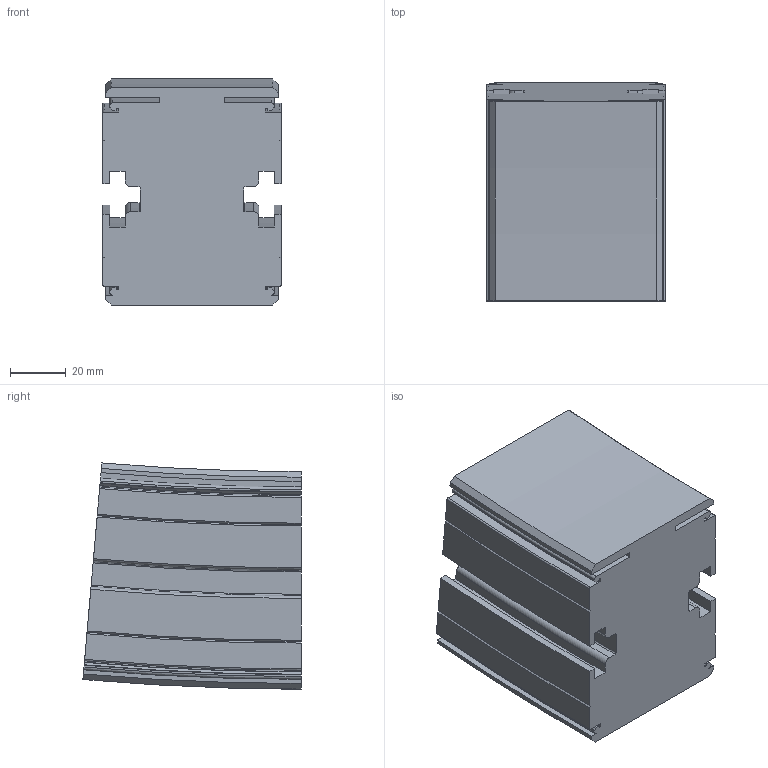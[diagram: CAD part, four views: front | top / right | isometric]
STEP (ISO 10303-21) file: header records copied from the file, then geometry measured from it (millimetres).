
FILE_DESCRIPTION(/* description */ ('VERTIKALKURVA S620 R860'),/* implementation_level */ '2;1');
FILE_NAME(/* name */ '\\carryline.intra\privat\users\mathias\Desktop\Tillfälliga filer\620-5695+620-2000-NER-01.stp',/* time_stamp */ '2018-12-05T16:09:54+01:00',/* author */ ('MD'),/* organization */ ('CARRYLINE'),/* preprocessor_version */ 'ST-DEVELOPER v17',/* originating_system */ 'Autodesk Inventor 2018',/* authorisation */ '');
FILE_SCHEMA (('AUTOMOTIVE_DESIGN { 1 0 10303 214 3 1 1 }'));
Length unit declared in the file: millimetre
Products named in the file (1): 620-5695+620-2000-NER-01
Bounding box: 64 x 78.27 x 81.12 mm (x, y, z)
Volume: 334860.8 mm3; surface area: 44781.9 mm2
Topology: 1 solids, 1 shells, 149 faces, 426 edges, 284 vertices
Faces by surface type: plane 54, cylinder 37, torus 28, cone 16, bspline 14
Entity records: 9536 total; most frequent: CARTESIAN_POINT 5516, ORIENTED_EDGE 852, DIRECTION 836, EDGE_CURVE 426, AXIS2_PLACEMENT_3D 315, VERTEX_POINT 284, LINE 206, VECTOR 206
